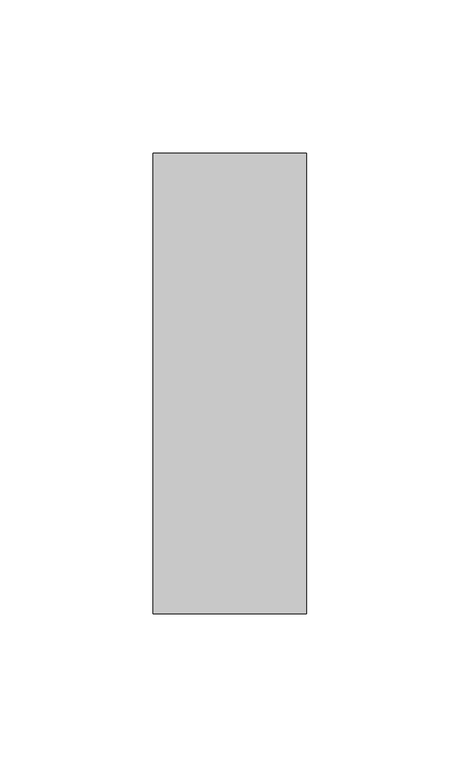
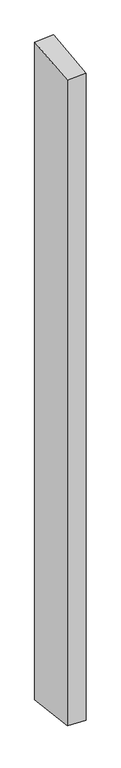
"""IFC4 building model written with IfcOpenShell, lengths in millimetres: member geometry, Прямоугольный импост : 50 x 150 мм."""

from ifc_helpers import new_model, si_unit, origin, place, context, project, spatial, faceted_brep, source, transform, mapped, element, save


def member_8656de0f(model_context):
    return source(origin(), model_context, "Body", "Brep", [
        faceted_brep([(-25.0, 75.0, 7.3358429), (25.0, 75.0, 9.7460498), (25.0, 75.0, -1842.5458359), (-25.0, 75.0, -1839.9844956), (-25.0, -75.0, -9.7460498), (-25.0, -75.0, -1821.5791482), (25.0, -75.0, -7.3358429), (25.0, -75.0, -1824.1404885)], [[[0, 1, 2, 3]], [[4, 0, 3, 5]], [[6, 4, 5, 7]], [[1, 6, 7, 2]], [[1, 0, 4, 6]], [[2, 7, 5, 3]]]),
    ])


if __name__ == "__main__":
    model = new_model("IFC4")
    model_context = context("Model", 3, world=origin())
    ifc_project = project(units=[si_unit("LENGTHUNIT", "METRE", prefix="MILLI")], contexts=[model_context])
    site = spatial("IfcSite", under=ifc_project)
    building = spatial("IfcBuilding", under=site)
    placement = place(None, origin())
    member_shape = member_8656de0f(model_context)
    element("IfcMember", 1, ObjectType="Прямоугольный импост : 50 x 150 мм", at=placement, inside=building, context=model_context, shape_type="MappedRepresentation", body=[
        mapped(member_shape, transform((0.0, 0.0, 0.0), x_axis=(1.0, 0.0, 0.0), y_axis=(0.0, 1.0, 0.0), z_axis=(0.0, 0.0, 1.0))),
    ])
    save(model, "model.ifc")
